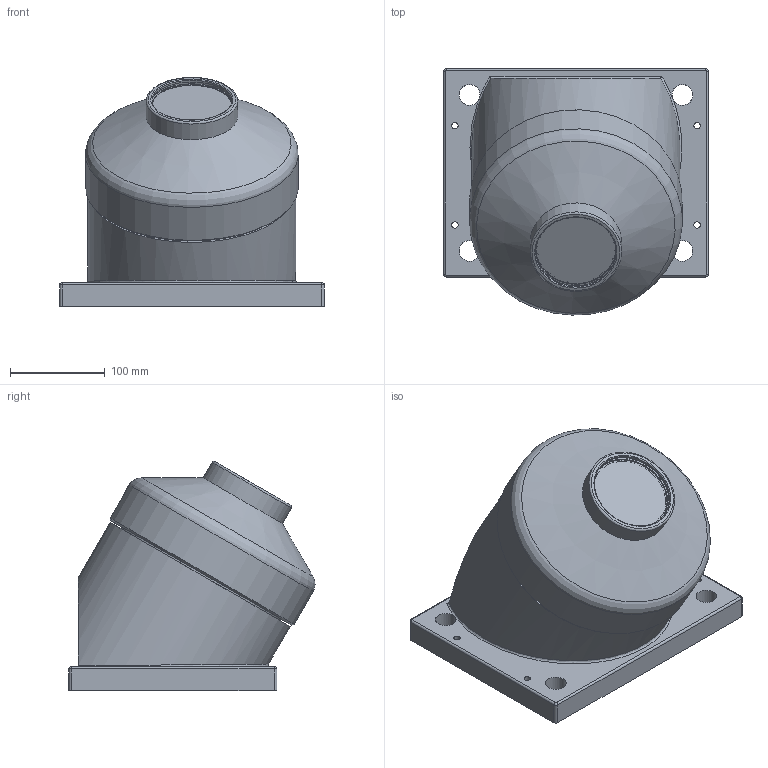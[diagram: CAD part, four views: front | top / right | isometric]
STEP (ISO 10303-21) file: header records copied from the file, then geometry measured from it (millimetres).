
FILE_DESCRIPTION(/* description */ (''),/* implementation_level */ '2;1');
FILE_NAME(/* name */ 'Z:\34-Tei\01-web 3Dデータ\SW車輪\SW-225-K.stp',/* time_stamp */ '2015-03-17T16:50:57+09:00',/* author */ ('yamaki'),/* organization */ (''),/* preprocessor_version */ 'ST-DEVELOPER v15.6',/* originating_system */ 'Autodesk Inventor 2015',/* authorisation */ '');
FILE_SCHEMA (('AUTOMOTIVE_DESIGN { 1 0 10303 214 3 1 1 }'));
Length unit declared in the file: centimetre
Products named in the file (1): SW-225-K
Bounding box: 280 x 260.45 x 242.42 mm (x, y, z)
Volume: 6320052 mm3; surface area: 497851.1 mm2
Topology: 2 solids, 4 shells, 128 faces, 266 edges, 169 vertices
Faces by surface type: cylinder 55, plane 43, cone 17, torus 8, bspline 5
Full cylindrical faces by diameter (mm): 6 x1, 6.647 x4, 10.5 x1, 22 x4, 35 x2, 43 x2, 45 x1, 46 x2, 56 x1, 58 x1, 72 x2, 80 x3, 80.1 x1, 81 x1, 84 x1, 85 x2, 88.5 x1, 90 x1, 96.828 x1, 135 x1, 155.1 x1, 159 x1, 166 x1, 183 x1, 195 x2, 201 x1, 220 x1, 225 x1
Entity records: 3460 total; most frequent: CARTESIAN_POINT 809, DIRECTION 552, ORIENTED_EDGE 368, AXIS2_PLACEMENT_3D 256, EDGE_LOOP 239, EDGE_CURVE 184, VERTEX_POINT 153, STYLED_ITEM 130
